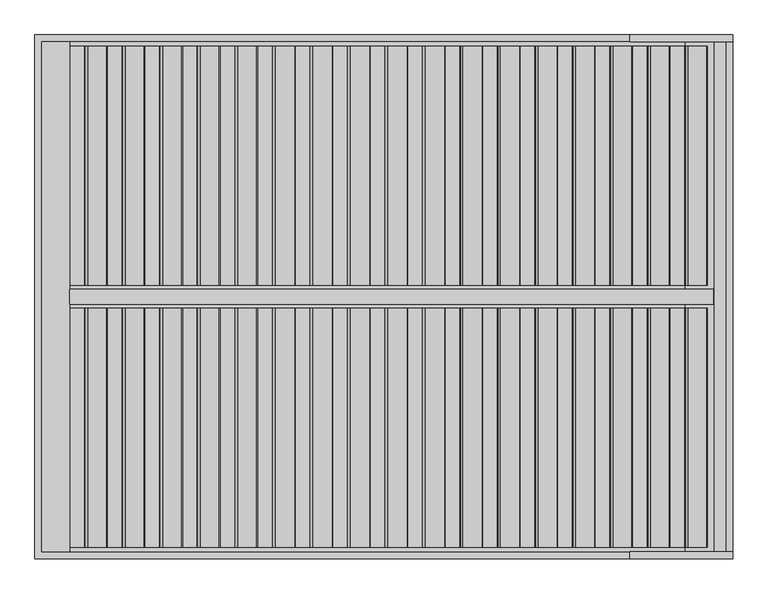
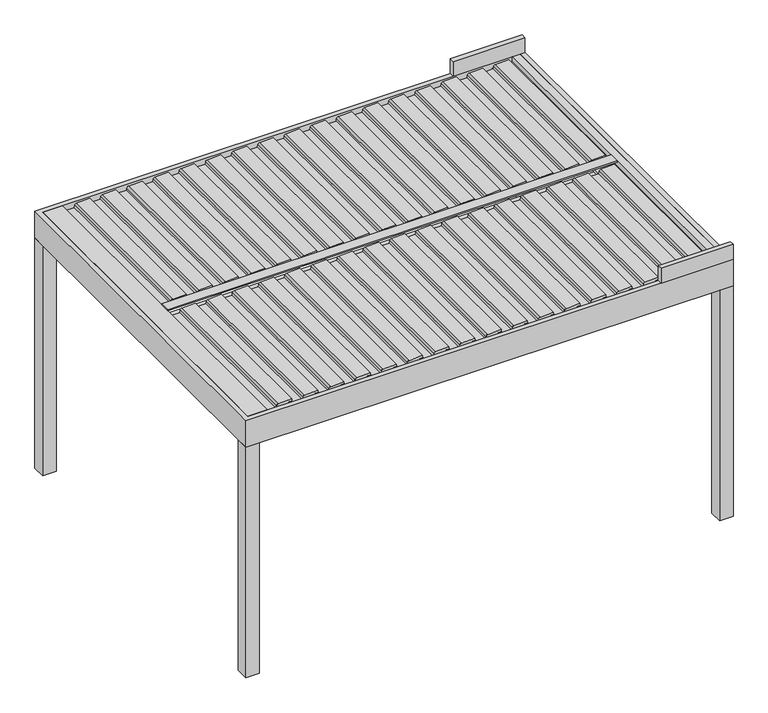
"""IFC4 building model written with IfcOpenShell, lengths in millimetres: proxy geometry, Renson_Algarve_Single Unit With Intermediate Beam : Algarve - Single Unit With Intermediate Beam."""

from ifc_helpers import new_model, si_unit, point, frame, frame_2d, origin, origin_with_axes, place, context, project, spatial, polyline, circle_curve, trimmed, segment, composite_curve, outline, extrude, faceted_brep, source, transform, mapped, element, save


def generic_models_7727c5ff(model_context):
    return source(origin(), model_context, "Body", "SolidModel", [
        extrude(outline(composite_curve([segment(polyline([(2188.35, 1609.6114167), (2216.01198, 1612.0315264), (2217.3970364, 1640.8667769), (2236.8911096, 1637.4294458), (2231.6075693, 1527.4323309)]), True, "CONTINUOUS"), segment(trimmed(circle_curve(frame_2d((2216.6248435, 1528.1520029)), 15.0), [point((2231.6075693, 1527.4323309))], [point((2219.2295662, 1513.3798866))], False, "CARTESIAN"), True, "CONTINUOUS"), segment(polyline([(2219.2295662, 1513.3798866), (2200.0, 1509.9891952), (2200.0, 1422.2534192), (2217.0788237, 1419.2419618), (2216.3450182, 1403.9649913), (2188.35, 1401.5157446), (2188.35, 1609.6114167)]), True, "CONTINUOUS")], self_intersect=False)), frame((0.0, -2185.0, 0.0), z_axis=(0.0, 1.0, 0.0), x_axis=(0.0, 0.0, 1.0)), (0.0, 0.0, 1.0), 1370.0),
        extrude(outline(composite_curve([segment(polyline([(2188.35, 1394.600612), (2216.01198, 1397.0207216), (2217.3970364, 1425.8559721), (2236.8911096, 1422.418641), (2231.6075693, 1312.4215261)]), True, "CONTINUOUS"), segment(trimmed(circle_curve(frame_2d((2216.6248435, 1313.1411981)), 15.0), [point((2231.6075693, 1312.4215261))], [point((2219.2295662, 1298.3690818))], False, "CARTESIAN"), True, "CONTINUOUS"), segment(polyline([(2219.2295662, 1298.3690818), (2200.0, 1294.9783904), (2200.0, 1207.2426144), (2217.0788237, 1204.231157), (2216.3450182, 1188.9541865), (2188.35, 1186.5049398), (2188.35, 1394.600612)]), True, "CONTINUOUS")], self_intersect=False)), frame((0.0, -2185.0, 0.0), z_axis=(0.0, 1.0, 0.0), x_axis=(0.0, 0.0, 1.0)), (0.0, 0.0, 1.0), 1370.0),
        extrude(outline(composite_curve([segment(polyline([(2188.35, 1179.5898072), (2216.01198, 1182.0099168), (2217.3970364, 1210.8451673), (2236.8911096, 1207.4078362), (2231.6075693, 1097.4107214)]), True, "CONTINUOUS"), segment(trimmed(circle_curve(frame_2d((2216.6248435, 1098.1303933)), 15.0), [point((2231.6075693, 1097.4107214))], [point((2219.2295662, 1083.358277))], False, "CARTESIAN"), True, "CONTINUOUS"), segment(polyline([(2219.2295662, 1083.358277), (2200.0, 1079.9675857), (2200.0, 992.2318096), (2217.0788237, 989.2203522), (2216.3450182, 973.9433817), (2188.35, 971.494135), (2188.35, 1179.5898072)]), True, "CONTINUOUS")], self_intersect=False)), frame((0.0, -2185.0, 0.0), z_axis=(0.0, 1.0, 0.0), x_axis=(0.0, 0.0, 1.0)), (0.0, 0.0, 1.0), 1370.0),
        extrude(outline(composite_curve([segment(polyline([(2188.35, 964.5790024), (2216.01198, 966.999112), (2217.3970364, 995.8343625), (2236.8911096, 992.3970314), (2231.6075693, 882.3999166)]), True, "CONTINUOUS"), segment(trimmed(circle_curve(frame_2d((2216.6248435, 883.1195885)), 15.0), [point((2231.6075693, 882.3999166))], [point((2219.2295662, 868.3474722))], False, "CARTESIAN"), True, "CONTINUOUS"), segment(polyline([(2219.2295662, 868.3474722), (2200.0, 864.9567809), (2200.0, 777.2210048), (2217.0788237, 774.2095474), (2216.3450182, 758.932577), (2188.35, 756.4833302), (2188.35, 964.5790024)]), True, "CONTINUOUS")], self_intersect=False)), frame((0.0, -2185.0, 0.0), z_axis=(0.0, 1.0, 0.0), x_axis=(0.0, 0.0, 1.0)), (0.0, 0.0, 1.0), 1370.0),
        extrude(outline(composite_curve([segment(polyline([(2188.35, 749.5681976), (2216.01198, 751.9883073), (2217.3970364, 780.8235577), (2236.8911096, 777.3862267), (2231.6075693, 667.3891118)]), True, "CONTINUOUS"), segment(trimmed(circle_curve(frame_2d((2216.6248435, 668.1087837)), 15.0), [point((2231.6075693, 667.3891118))], [point((2219.2295662, 653.3366674))], False, "CARTESIAN"), True, "CONTINUOUS"), segment(polyline([(2219.2295662, 653.3366674), (2200.0, 649.9459761), (2200.0, 562.2102001), (2217.0788237, 559.1987426), (2216.3450182, 543.9217722), (2188.35, 541.4725254), (2188.35, 749.5681976)]), True, "CONTINUOUS")], self_intersect=False)), frame((0.0, -2185.0, 0.0), z_axis=(0.0, 1.0, 0.0), x_axis=(0.0, 0.0, 1.0)), (0.0, 0.0, 1.0), 1370.0),
        extrude(outline(composite_curve([segment(polyline([(2188.35, 534.5573928), (2216.01198, 536.9775025), (2217.3970364, 565.8127529), (2236.8911096, 562.3754219), (2231.6075693, 452.378307)]), True, "CONTINUOUS"), segment(trimmed(circle_curve(frame_2d((2216.6248435, 453.0979789)), 15.0), [point((2231.6075693, 452.378307))], [point((2219.2295662, 438.3258627))], False, "CARTESIAN"), True, "CONTINUOUS"), segment(polyline([(2219.2295662, 438.3258627), (2200.0, 434.9351713), (2200.0, 347.1993953), (2217.0788237, 344.1879379), (2216.3450182, 328.9109674), (2188.35, 326.4617207), (2188.35, 534.5573928)]), True, "CONTINUOUS")], self_intersect=False)), frame((0.0, -2185.0, 0.0), z_axis=(0.0, 1.0, 0.0), x_axis=(0.0, 0.0, 1.0)), (0.0, 0.0, 1.0), 1370.0),
        extrude(outline(composite_curve([segment(polyline([(2188.35, 319.546588), (2216.01198, 321.9666977), (2217.3970364, 350.8019482), (2236.8911096, 347.3646171), (2231.6075693, 237.3675022)]), True, "CONTINUOUS"), segment(trimmed(circle_curve(frame_2d((2216.6248435, 238.0871742)), 15.0), [point((2231.6075693, 237.3675022))], [point((2219.2295662, 223.3150579))], False, "CARTESIAN"), True, "CONTINUOUS"), segment(polyline([(2219.2295662, 223.3150579), (2200.0, 219.9243665), (2200.0, 132.1885905), (2217.0788237, 129.1771331), (2216.3450182, 113.9001626), (2188.35, 111.4509159), (2188.35, 319.546588)]), True, "CONTINUOUS")], self_intersect=False)), frame((0.0, -2185.0, 0.0), z_axis=(0.0, 1.0, 0.0), x_axis=(0.0, 0.0, 1.0)), (0.0, 0.0, 1.0), 1370.0),
        extrude(outline(composite_curve([segment(polyline([(2188.35, 104.5357833), (2216.01198, 106.9558929), (2217.3970364, 135.7911434), (2236.8911096, 132.3538123), (2231.6075693, 22.3566975)]), True, "CONTINUOUS"), segment(trimmed(circle_curve(frame_2d((2216.6248435, 23.0763694)), 15.0), [point((2231.6075693, 22.3566975))], [point((2219.2295662, 8.3042531))], False, "CARTESIAN"), True, "CONTINUOUS"), segment(polyline([(2219.2295662, 8.3042531), (2200.0, 4.9135617), (2200.0, -82.8222143), (2217.0788237, -85.8336717), (2216.3450182, -101.1106422), (2188.35, -103.5598889), (2188.35, 104.5357833)]), True, "CONTINUOUS")], self_intersect=False)), frame((0.0, -2185.0, 0.0), z_axis=(0.0, 1.0, 0.0), x_axis=(0.0, 0.0, 1.0)), (0.0, 0.0, 1.0), 1370.0),
        extrude(outline(composite_curve([segment(polyline([(2188.35, -110.4750215), (2216.01198, -108.0549119), (2217.3970364, -79.2196614), (2236.8911096, -82.6569925), (2231.6075693, -192.6541073)]), True, "CONTINUOUS"), segment(trimmed(circle_curve(frame_2d((2216.6248435, -191.9344354)), 15.0), [point((2231.6075693, -192.6541073))], [point((2219.2295662, -206.7065517))], False, "CARTESIAN"), True, "CONTINUOUS"), segment(polyline([(2219.2295662, -206.7065517), (2200.0, -210.097243), (2200.0, -297.8330191), (2217.0788237, -300.8444765), (2216.3450182, -316.121447), (2188.35, -318.5706937), (2188.35, -110.4750215)]), True, "CONTINUOUS")], self_intersect=False)), frame((0.0, -2185.0, 0.0), z_axis=(0.0, 1.0, 0.0), x_axis=(0.0, 0.0, 1.0)), (0.0, 0.0, 1.0), 1370.0),
        extrude(outline(composite_curve([segment(polyline([(2188.35, -325.4858263), (2216.01198, -323.0657166), (2217.3970364, -294.2304662), (2236.8911096, -297.6677973), (2231.6075693, -407.6649121)]), True, "CONTINUOUS"), segment(trimmed(circle_curve(frame_2d((2216.6248435, -406.9452402)), 15.0), [point((2231.6075693, -407.6649121))], [point((2219.2295662, -421.7173565))], False, "CARTESIAN"), True, "CONTINUOUS"), segment(polyline([(2219.2295662, -421.7173565), (2200.0, -425.1080478), (2200.0, -512.8438238), (2217.0788237, -515.8552813), (2216.3450182, -531.1322517), (2188.35, -533.5814985), (2188.35, -325.4858263)]), True, "CONTINUOUS")], self_intersect=False)), frame((0.0, -2185.0, 0.0), z_axis=(0.0, 1.0, 0.0), x_axis=(0.0, 0.0, 1.0)), (0.0, 0.0, 1.0), 1370.0),
        extrude(outline(composite_curve([segment(polyline([(2188.35, -540.4966311), (2216.01198, -538.0765214), (2217.3970364, -509.241271), (2236.8911096, -512.678602), (2231.6075693, -622.6757169)]), True, "CONTINUOUS"), segment(trimmed(circle_curve(frame_2d((2216.6248435, -621.956045)), 15.0), [point((2231.6075693, -622.6757169))], [point((2219.2295662, -636.7281613))], False, "CARTESIAN"), True, "CONTINUOUS"), segment(polyline([(2219.2295662, -636.7281613), (2200.0, -640.1188526), (2200.0, -727.8546286), (2217.0788237, -730.866086), (2216.3450182, -746.1430565), (2188.35, -748.5923032), (2188.35, -540.4966311)]), True, "CONTINUOUS")], self_intersect=False)), frame((0.0, -2185.0, 0.0), z_axis=(0.0, 1.0, 0.0), x_axis=(0.0, 0.0, 1.0)), (0.0, 0.0, 1.0), 1370.0),
        extrude(outline(composite_curve([segment(polyline([(2188.35, -755.5074359), (2216.01198, -753.0873262), (2217.3970364, -724.2520757), (2236.8911096, -727.6894068), (2231.6075693, -837.6865217)]), True, "CONTINUOUS"), segment(trimmed(circle_curve(frame_2d((2216.6248435, -836.9668497)), 15.0), [point((2231.6075693, -837.6865217))], [point((2219.2295662, -851.738966))], False, "CARTESIAN"), True, "CONTINUOUS"), segment(polyline([(2219.2295662, -851.738966), (2200.0, -855.1296574), (2200.0, -942.8654334), (2217.0788237, -945.8768908), (2216.3450182, -961.1538613), (2188.35, -963.603108), (2188.35, -755.5074359)]), True, "CONTINUOUS")], self_intersect=False)), frame((0.0, -2185.0, 0.0), z_axis=(0.0, 1.0, 0.0), x_axis=(0.0, 0.0, 1.0)), (0.0, 0.0, 1.0), 1370.0),
        extrude(outline(composite_curve([segment(polyline([(2188.35, -970.5182406), (2216.01198, -968.098131), (2217.3970364, -939.2628805), (2236.8911096, -942.7002116), (2231.6075693, -1052.6973265)]), True, "CONTINUOUS"), segment(trimmed(circle_curve(frame_2d((2216.6248435, -1051.9776545)), 15.0), [point((2231.6075693, -1052.6973265))], [point((2219.2295662, -1066.7497708))], False, "CARTESIAN"), True, "CONTINUOUS"), segment(polyline([(2219.2295662, -1066.7497708), (2200.0, -1070.1404622), (2200.0, -1157.8762382), (2217.0788237, -1160.8876956), (2216.3450182, -1176.1646661), (2188.35, -1178.6139128), (2188.35, -970.5182406)]), True, "CONTINUOUS")], self_intersect=False)), frame((0.0, -2185.0, 0.0), z_axis=(0.0, 1.0, 0.0), x_axis=(0.0, 0.0, 1.0)), (0.0, 0.0, 1.0), 1370.0),
        extrude(outline(composite_curve([segment(polyline([(2188.35, -1185.5290454), (2216.01198, -1183.1089358), (2217.3970364, -1154.2736853), (2236.8911096, -1157.7110164), (2231.6075693, -1267.7081312)]), True, "CONTINUOUS"), segment(trimmed(circle_curve(frame_2d((2216.6248435, -1266.9884593)), 15.0), [point((2231.6075693, -1267.7081312))], [point((2219.2295662, -1281.7605756))], False, "CARTESIAN"), True, "CONTINUOUS"), segment(polyline([(2219.2295662, -1281.7605756), (2200.0, -1285.1512669), (2200.0, -1372.887043), (2217.0788237, -1375.8985004), (2216.3450182, -1391.1754709), (2188.35, -1393.6247176), (2188.35, -1185.5290454)]), True, "CONTINUOUS")], self_intersect=False)), frame((0.0, -2185.0, 0.0), z_axis=(0.0, 1.0, 0.0), x_axis=(0.0, 0.0, 1.0)), (0.0, 0.0, 1.0), 1370.0),
        extrude(outline(composite_curve([segment(polyline([(2188.35, -1400.5398502), (2216.01198, -1398.1197405), (2217.3970364, -1369.2844901), (2236.8911096, -1372.7218212), (2231.6075693, -1482.718936)]), True, "CONTINUOUS"), segment(trimmed(circle_curve(frame_2d((2216.6248435, -1481.9992641)), 15.0), [point((2231.6075693, -1482.718936))], [point((2219.2295662, -1496.7713804))], False, "CARTESIAN"), True, "CONTINUOUS"), segment(polyline([(2219.2295662, -1496.7713804), (2200.0, -1500.1620717), (2200.0, -1587.8978478), (2217.0788237, -1590.9093052), (2216.3450182, -1606.1862756), (2188.35, -1608.6355224), (2188.35, -1400.5398502)]), True, "CONTINUOUS")], self_intersect=False)), frame((0.0, -2185.0, 0.0), z_axis=(0.0, 1.0, 0.0), x_axis=(0.0, 0.0, 1.0)), (0.0, 0.0, 1.0), 1370.0),
        extrude(outline(composite_curve([segment(polyline([(2188.35, 1824.6222215), (2216.01198, 1827.0423312), (2217.3970364, 1855.8775816), (2236.8911096, 1852.4402506), (2231.6075693, 1742.4431357)]), True, "CONTINUOUS"), segment(trimmed(circle_curve(frame_2d((2216.6248435, 1743.1628076)), 15.0), [point((2231.6075693, 1742.4431357))], [point((2219.2295662, 1728.3906913))], False, "CARTESIAN"), True, "CONTINUOUS"), segment(polyline([(2219.2295662, 1728.3906913), (2200.0, 1725.0), (2200.0, 1637.264224), (2217.0788237, 1634.2527666), (2216.3450182, 1618.9757961), (2188.35, 1616.5265494), (2188.35, 1824.6222215)]), True, "CONTINUOUS")], self_intersect=False)), frame((0.0, -2185.0, 0.0), z_axis=(0.0, 1.0, 0.0), x_axis=(0.0, 0.0, 1.0)), (0.0, 0.0, 1.0), 1370.0),
        extrude(outline(composite_curve([segment(polyline([(2188.35, -1615.550655), (2216.01198, -1613.1305453), (2217.3970364, -1584.2952949), (2236.8911096, -1587.7326259), (2231.6075693, -1697.7297408)]), True, "CONTINUOUS"), segment(trimmed(circle_curve(frame_2d((2216.6248435, -1697.0100689)), 15.0), [point((2231.6075693, -1697.7297408))], [point((2219.2295662, -1711.7821852))], False, "CARTESIAN"), True, "CONTINUOUS"), segment(polyline([(2219.2295662, -1711.7821852), (2200.0, -1715.1728765), (2200.0, -1802.9086525), (2217.0788237, -1805.9201099), (2216.3450182, -1821.1970804), (2188.35, -1823.6463271), (2188.35, -1615.550655)]), True, "CONTINUOUS")], self_intersect=False)), frame((0.0, -2185.0, 0.0), z_axis=(0.0, 1.0, 0.0), x_axis=(0.0, 0.0, 1.0)), (0.0, 0.0, 1.0), 1370.0),
        extrude(outline(composite_curve([segment(polyline([(2188.35, 1609.6114167), (2216.01198, 1612.0315264), (2217.3970364, 1640.8667769), (2236.8911096, 1637.4294458), (2231.6075693, 1527.4323309)]), True, "CONTINUOUS"), segment(trimmed(circle_curve(frame_2d((2216.6248435, 1528.1520029)), 15.0), [point((2231.6075693, 1527.4323309))], [point((2219.2295662, 1513.3798866))], False, "CARTESIAN"), True, "CONTINUOUS"), segment(polyline([(2219.2295662, 1513.3798866), (2200.0, 1509.9891952), (2200.0, 1422.2534192), (2217.0788237, 1419.2419618), (2216.3450182, 1403.9649913), (2188.35, 1401.5157446), (2188.35, 1609.6114167)]), True, "CONTINUOUS")], self_intersect=False)), frame((0.0, -685.0, 0.0), z_axis=(0.0, 1.0, 0.0), x_axis=(0.0, 0.0, 1.0)), (0.0, 0.0, 1.0), 1370.0),
        extrude(outline(composite_curve([segment(polyline([(2188.35, 1394.600612), (2216.01198, 1397.0207216), (2217.3970364, 1425.8559721), (2236.8911096, 1422.418641), (2231.6075693, 1312.4215261)]), True, "CONTINUOUS"), segment(trimmed(circle_curve(frame_2d((2216.6248435, 1313.1411981)), 15.0), [point((2231.6075693, 1312.4215261))], [point((2219.2295662, 1298.3690818))], False, "CARTESIAN"), True, "CONTINUOUS"), segment(polyline([(2219.2295662, 1298.3690818), (2200.0, 1294.9783904), (2200.0, 1207.2426144), (2217.0788237, 1204.231157), (2216.3450182, 1188.9541865), (2188.35, 1186.5049398), (2188.35, 1394.600612)]), True, "CONTINUOUS")], self_intersect=False)), frame((0.0, -685.0, 0.0), z_axis=(0.0, 1.0, 0.0), x_axis=(0.0, 0.0, 1.0)), (0.0, 0.0, 1.0), 1370.0),
        extrude(outline(composite_curve([segment(polyline([(2188.35, 1179.5898072), (2216.01198, 1182.0099168), (2217.3970364, 1210.8451673), (2236.8911096, 1207.4078362), (2231.6075693, 1097.4107214)]), True, "CONTINUOUS"), segment(trimmed(circle_curve(frame_2d((2216.6248435, 1098.1303933)), 15.0), [point((2231.6075693, 1097.4107214))], [point((2219.2295662, 1083.358277))], False, "CARTESIAN"), True, "CONTINUOUS"), segment(polyline([(2219.2295662, 1083.358277), (2200.0, 1079.9675857), (2200.0, 992.2318096), (2217.0788237, 989.2203522), (2216.3450182, 973.9433817), (2188.35, 971.494135), (2188.35, 1179.5898072)]), True, "CONTINUOUS")], self_intersect=False)), frame((0.0, -685.0, 0.0), z_axis=(0.0, 1.0, 0.0), x_axis=(0.0, 0.0, 1.0)), (0.0, 0.0, 1.0), 1370.0),
        extrude(outline(composite_curve([segment(polyline([(2188.35, 964.5790024), (2216.01198, 966.999112), (2217.3970364, 995.8343625), (2236.8911096, 992.3970314), (2231.6075693, 882.3999166)]), True, "CONTINUOUS"), segment(trimmed(circle_curve(frame_2d((2216.6248435, 883.1195885)), 15.0), [point((2231.6075693, 882.3999166))], [point((2219.2295662, 868.3474722))], False, "CARTESIAN"), True, "CONTINUOUS"), segment(polyline([(2219.2295662, 868.3474722), (2200.0, 864.9567809), (2200.0, 777.2210048), (2217.0788237, 774.2095474), (2216.3450182, 758.932577), (2188.35, 756.4833302), (2188.35, 964.5790024)]), True, "CONTINUOUS")], self_intersect=False)), frame((0.0, -685.0, 0.0), z_axis=(0.0, 1.0, 0.0), x_axis=(0.0, 0.0, 1.0)), (0.0, 0.0, 1.0), 1370.0),
        extrude(outline(composite_curve([segment(polyline([(2188.35, 749.5681976), (2216.01198, 751.9883073), (2217.3970364, 780.8235577), (2236.8911096, 777.3862267), (2231.6075693, 667.3891118)]), True, "CONTINUOUS"), segment(trimmed(circle_curve(frame_2d((2216.6248435, 668.1087837)), 15.0), [point((2231.6075693, 667.3891118))], [point((2219.2295662, 653.3366674))], False, "CARTESIAN"), True, "CONTINUOUS"), segment(polyline([(2219.2295662, 653.3366674), (2200.0, 649.9459761), (2200.0, 562.2102001), (2217.0788237, 559.1987426), (2216.3450182, 543.9217722), (2188.35, 541.4725254), (2188.35, 749.5681976)]), True, "CONTINUOUS")], self_intersect=False)), frame((0.0, -685.0, 0.0), z_axis=(0.0, 1.0, 0.0), x_axis=(0.0, 0.0, 1.0)), (0.0, 0.0, 1.0), 1370.0),
        extrude(outline(composite_curve([segment(polyline([(2188.35, 534.5573928), (2216.01198, 536.9775025), (2217.3970364, 565.8127529), (2236.8911096, 562.3754219), (2231.6075693, 452.378307)]), True, "CONTINUOUS"), segment(trimmed(circle_curve(frame_2d((2216.6248435, 453.0979789)), 15.0), [point((2231.6075693, 452.378307))], [point((2219.2295662, 438.3258627))], False, "CARTESIAN"), True, "CONTINUOUS"), segment(polyline([(2219.2295662, 438.3258627), (2200.0, 434.9351713), (2200.0, 347.1993953), (2217.0788237, 344.1879379), (2216.3450182, 328.9109674), (2188.35, 326.4617207), (2188.35, 534.5573928)]), True, "CONTINUOUS")], self_intersect=False)), frame((0.0, -685.0, 0.0), z_axis=(0.0, 1.0, 0.0), x_axis=(0.0, 0.0, 1.0)), (0.0, 0.0, 1.0), 1370.0),
        extrude(outline(composite_curve([segment(polyline([(2188.35, 319.546588), (2216.01198, 321.9666977), (2217.3970364, 350.8019482), (2236.8911096, 347.3646171), (2231.6075693, 237.3675022)]), True, "CONTINUOUS"), segment(trimmed(circle_curve(frame_2d((2216.6248435, 238.0871742)), 15.0), [point((2231.6075693, 237.3675022))], [point((2219.2295662, 223.3150579))], False, "CARTESIAN"), True, "CONTINUOUS"), segment(polyline([(2219.2295662, 223.3150579), (2200.0, 219.9243665), (2200.0, 132.1885905), (2217.0788237, 129.1771331), (2216.3450182, 113.9001626), (2188.35, 111.4509159), (2188.35, 319.546588)]), True, "CONTINUOUS")], self_intersect=False)), frame((0.0, -685.0, 0.0), z_axis=(0.0, 1.0, 0.0), x_axis=(0.0, 0.0, 1.0)), (0.0, 0.0, 1.0), 1370.0),
        extrude(outline(composite_curve([segment(polyline([(2188.35, 104.5357833), (2216.01198, 106.9558929), (2217.3970364, 135.7911434), (2236.8911096, 132.3538123), (2231.6075693, 22.3566975)]), True, "CONTINUOUS"), segment(trimmed(circle_curve(frame_2d((2216.6248435, 23.0763694)), 15.0), [point((2231.6075693, 22.3566975))], [point((2219.2295662, 8.3042531))], False, "CARTESIAN"), True, "CONTINUOUS"), segment(polyline([(2219.2295662, 8.3042531), (2200.0, 4.9135617), (2200.0, -82.8222143), (2217.0788237, -85.8336717), (2216.3450182, -101.1106422), (2188.35, -103.5598889), (2188.35, 104.5357833)]), True, "CONTINUOUS")], self_intersect=False)), frame((0.0, -685.0, 0.0), z_axis=(0.0, 1.0, 0.0), x_axis=(0.0, 0.0, 1.0)), (0.0, 0.0, 1.0), 1370.0),
        extrude(outline(composite_curve([segment(polyline([(2188.35, -110.4750215), (2216.01198, -108.0549119), (2217.3970364, -79.2196614), (2236.8911096, -82.6569925), (2231.6075693, -192.6541073)]), True, "CONTINUOUS"), segment(trimmed(circle_curve(frame_2d((2216.6248435, -191.9344354)), 15.0), [point((2231.6075693, -192.6541073))], [point((2219.2295662, -206.7065517))], False, "CARTESIAN"), True, "CONTINUOUS"), segment(polyline([(2219.2295662, -206.7065517), (2200.0, -210.097243), (2200.0, -297.8330191), (2217.0788237, -300.8444765), (2216.3450182, -316.121447), (2188.35, -318.5706937), (2188.35, -110.4750215)]), True, "CONTINUOUS")], self_intersect=False)), frame((0.0, -685.0, 0.0), z_axis=(0.0, 1.0, 0.0), x_axis=(0.0, 0.0, 1.0)), (0.0, 0.0, 1.0), 1370.0),
        extrude(outline(composite_curve([segment(polyline([(2188.35, -325.4858263), (2216.01198, -323.0657166), (2217.3970364, -294.2304662), (2236.8911096, -297.6677973), (2231.6075693, -407.6649121)]), True, "CONTINUOUS"), segment(trimmed(circle_curve(frame_2d((2216.6248435, -406.9452402)), 15.0), [point((2231.6075693, -407.6649121))], [point((2219.2295662, -421.7173565))], False, "CARTESIAN"), True, "CONTINUOUS"), segment(polyline([(2219.2295662, -421.7173565), (2200.0, -425.1080478), (2200.0, -512.8438238), (2217.0788237, -515.8552813), (2216.3450182, -531.1322517), (2188.35, -533.5814985), (2188.35, -325.4858263)]), True, "CONTINUOUS")], self_intersect=False)), frame((0.0, -685.0, 0.0), z_axis=(0.0, 1.0, 0.0), x_axis=(0.0, 0.0, 1.0)), (0.0, 0.0, 1.0), 1370.0),
        extrude(outline(composite_curve([segment(polyline([(2188.35, -540.4966311), (2216.01198, -538.0765214), (2217.3970364, -509.241271), (2236.8911096, -512.678602), (2231.6075693, -622.6757169)]), True, "CONTINUOUS"), segment(trimmed(circle_curve(frame_2d((2216.6248435, -621.956045)), 15.0), [point((2231.6075693, -622.6757169))], [point((2219.2295662, -636.7281613))], False, "CARTESIAN"), True, "CONTINUOUS"), segment(polyline([(2219.2295662, -636.7281613), (2200.0, -640.1188526), (2200.0, -727.8546286), (2217.0788237, -730.866086), (2216.3450182, -746.1430565), (2188.35, -748.5923032), (2188.35, -540.4966311)]), True, "CONTINUOUS")], self_intersect=False)), frame((0.0, -685.0, 0.0), z_axis=(0.0, 1.0, 0.0), x_axis=(0.0, 0.0, 1.0)), (0.0, 0.0, 1.0), 1370.0),
        extrude(outline(composite_curve([segment(polyline([(2188.35, -755.5074359), (2216.01198, -753.0873262), (2217.3970364, -724.2520757), (2236.8911096, -727.6894068), (2231.6075693, -837.6865217)]), True, "CONTINUOUS"), segment(trimmed(circle_curve(frame_2d((2216.6248435, -836.9668497)), 15.0), [point((2231.6075693, -837.6865217))], [point((2219.2295662, -851.738966))], False, "CARTESIAN"), True, "CONTINUOUS"), segment(polyline([(2219.2295662, -851.738966), (2200.0, -855.1296574), (2200.0, -942.8654334), (2217.0788237, -945.8768908), (2216.3450182, -961.1538613), (2188.35, -963.603108), (2188.35, -755.5074359)]), True, "CONTINUOUS")], self_intersect=False)), frame((0.0, -685.0, 0.0), z_axis=(0.0, 1.0, 0.0), x_axis=(0.0, 0.0, 1.0)), (0.0, 0.0, 1.0), 1370.0),
        extrude(outline(composite_curve([segment(polyline([(2188.35, -970.5182406), (2216.01198, -968.098131), (2217.3970364, -939.2628805), (2236.8911096, -942.7002116), (2231.6075693, -1052.6973265)]), True, "CONTINUOUS"), segment(trimmed(circle_curve(frame_2d((2216.6248435, -1051.9776545)), 15.0), [point((2231.6075693, -1052.6973265))], [point((2219.2295662, -1066.7497708))], False, "CARTESIAN"), True, "CONTINUOUS"), segment(polyline([(2219.2295662, -1066.7497708), (2200.0, -1070.1404622), (2200.0, -1157.8762382), (2217.0788237, -1160.8876956), (2216.3450182, -1176.1646661), (2188.35, -1178.6139128), (2188.35, -970.5182406)]), True, "CONTINUOUS")], self_intersect=False)), frame((0.0, -685.0, 0.0), z_axis=(0.0, 1.0, 0.0), x_axis=(0.0, 0.0, 1.0)), (0.0, 0.0, 1.0), 1370.0),
        extrude(outline(composite_curve([segment(polyline([(2188.35, -1185.5290454), (2216.01198, -1183.1089358), (2217.3970364, -1154.2736853), (2236.8911096, -1157.7110164), (2231.6075693, -1267.7081312)]), True, "CONTINUOUS"), segment(trimmed(circle_curve(frame_2d((2216.6248435, -1266.9884593)), 15.0), [point((2231.6075693, -1267.7081312))], [point((2219.2295662, -1281.7605756))], False, "CARTESIAN"), True, "CONTINUOUS"), segment(polyline([(2219.2295662, -1281.7605756), (2200.0, -1285.1512669), (2200.0, -1372.887043), (2217.0788237, -1375.8985004), (2216.3450182, -1391.1754709), (2188.35, -1393.6247176), (2188.35, -1185.5290454)]), True, "CONTINUOUS")], self_intersect=False)), frame((0.0, -685.0, 0.0), z_axis=(0.0, 1.0, 0.0), x_axis=(0.0, 0.0, 1.0)), (0.0, 0.0, 1.0), 1370.0),
        extrude(outline(composite_curve([segment(polyline([(2188.35, -1400.5398502), (2216.01198, -1398.1197405), (2217.3970364, -1369.2844901), (2236.8911096, -1372.7218212), (2231.6075693, -1482.718936)]), True, "CONTINUOUS"), segment(trimmed(circle_curve(frame_2d((2216.6248435, -1481.9992641)), 15.0), [point((2231.6075693, -1482.718936))], [point((2219.2295662, -1496.7713804))], False, "CARTESIAN"), True, "CONTINUOUS"), segment(polyline([(2219.2295662, -1496.7713804), (2200.0, -1500.1620717), (2200.0, -1587.8978478), (2217.0788237, -1590.9093052), (2216.3450182, -1606.1862756), (2188.35, -1608.6355224), (2188.35, -1400.5398502)]), True, "CONTINUOUS")], self_intersect=False)), frame((0.0, -685.0, 0.0), z_axis=(0.0, 1.0, 0.0), x_axis=(0.0, 0.0, 1.0)), (0.0, 0.0, 1.0), 1370.0),
        extrude(outline(composite_curve([segment(polyline([(2188.35, 1824.6222215), (2216.01198, 1827.0423312), (2217.3970364, 1855.8775816), (2236.8911096, 1852.4402506), (2231.6075693, 1742.4431357)]), True, "CONTINUOUS"), segment(trimmed(circle_curve(frame_2d((2216.6248435, 1743.1628076)), 15.0), [point((2231.6075693, 1742.4431357))], [point((2219.2295662, 1728.3906913))], False, "CARTESIAN"), True, "CONTINUOUS"), segment(polyline([(2219.2295662, 1728.3906913), (2200.0, 1725.0), (2200.0, 1637.264224), (2217.0788237, 1634.2527666), (2216.3450182, 1618.9757961), (2188.35, 1616.5265494), (2188.35, 1824.6222215)]), True, "CONTINUOUS")], self_intersect=False)), frame((0.0, -685.0, 0.0), z_axis=(0.0, 1.0, 0.0), x_axis=(0.0, 0.0, 1.0)), (0.0, 0.0, 1.0), 1370.0),
        extrude(outline(composite_curve([segment(polyline([(2188.35, -1615.550655), (2216.01198, -1613.1305453), (2217.3970364, -1584.2952949), (2236.8911096, -1587.7326259), (2231.6075693, -1697.7297408)]), True, "CONTINUOUS"), segment(trimmed(circle_curve(frame_2d((2216.6248435, -1697.0100689)), 15.0), [point((2231.6075693, -1697.7297408))], [point((2219.2295662, -1711.7821852))], False, "CARTESIAN"), True, "CONTINUOUS"), segment(polyline([(2219.2295662, -1711.7821852), (2200.0, -1715.1728765), (2200.0, -1802.9086525), (2217.0788237, -1805.9201099), (2216.3450182, -1821.1970804), (2188.35, -1823.6463271), (2188.35, -1615.550655)]), True, "CONTINUOUS")], self_intersect=False)), frame((0.0, -685.0, 0.0), z_axis=(0.0, 1.0, 0.0), x_axis=(0.0, 0.0, 1.0)), (0.0, 0.0, 1.0), 1370.0),
        extrude(outline(polyline([(2168.0, 1960.0), (2230.0, 1960.0), (2230.0, 1896.0), (2188.0, 1896.0), (2188.0, 1730.0), (2168.0, 1730.0), (2168.0, 1960.0)])), frame((0.0, -2210.0, 0.0), z_axis=(0.0, 1.0, 0.0), x_axis=(0.0, 0.0, 1.0)), (0.0, 0.0, 1.0), 2920.0),
        extrude(outline(polyline([(2230.0, -1800.0), (2230.0, -1960.0), (2186.0, -1960.0), (2186.0, -1827.3193336), (2219.1716603, -1824.4171894), (2220.344502, -1800.0), (2230.0, -1800.0)])), frame((0.0, -2210.0, 0.0), z_axis=(0.0, 1.0, 0.0), x_axis=(0.0, 0.0, 1.0)), (0.0, 0.0, 1.0), 2920.0),
        extrude(outline(polyline([(2000.0, -2210.0), (2000.0, -2250.0), (1410.0, -2250.0), (1410.0, -2210.0), (2000.0, -2210.0)])), frame((0.0, 0.0, 2230.0), z_axis=(0.0, 0.0, 1.0), x_axis=(1.0, 0.0, 0.0)), (0.0, 0.0, 1.0), 130.0),
        extrude(outline(polyline([(1890.0, -713.0), (-1890.0, -713.0), (-1890.0, -640.0), (1890.0, -640.0), (1890.0, -713.0)])), frame((0.0, 0.0, 2000.0), z_axis=(0.0, 0.0, 1.0), x_axis=(1.0, 0.0, 0.0)), (0.0, 0.0, 1.0), 90.0),
        extrude(outline(polyline([(1890.0, -787.0), (1890.0, -860.0), (-1890.0, -860.0), (-1890.0, -787.0), (1890.0, -787.0)])), frame((0.0, 0.0, 2000.0), z_axis=(0.0, 0.0, 1.0), x_axis=(1.0, 0.0, 0.0)), (0.0, 0.0, 1.0), 90.0),
        extrude(outline(polyline([(1890.0, -707.5), (1890.0, -792.5), (-1800.0, -792.5), (-1800.0, -707.5), (1890.0, -707.5)])), frame((0.0, 0.0, 2230.0), z_axis=(0.0, 0.0, 1.0), x_axis=(1.0, 0.0, 0.0)), (0.0, 0.0, 1.0), 10.0),
        faceted_brep([(1890.0, 640.0, 2057.0), (1890.0, 640.0, 2000.0), (1890.0, -2140.0, 2000.0), (1890.0, -2140.0, 2057.0), (2000.0, 750.0, 2000.0), (2000.0, 750.0, 2230.0), (2000.0, -2250.0, 2230.0), (2000.0, -2250.0, 2000.0), (1960.0, 710.0, 2230.0), (1960.0, 710.0, 2057.0), (1960.0, -2210.0, 2057.0), (1960.0, -2210.0, 2230.0), (-1890.0, -2140.0, 2000.0), (-1890.0, -2140.0, 2057.0), (-2000.0, -2250.0, 2230.0), (-2000.0, -2250.0, 2000.0), (-1960.0, -2210.0, 2057.0), (-1960.0, -2210.0, 2230.0), (-1890.0, 640.0, 2000.0), (-1890.0, 640.0, 2057.0), (-2000.0, 750.0, 2230.0), (-2000.0, 750.0, 2000.0), (-1960.0, 710.0, 2057.0), (-1960.0, 710.0, 2230.0)], [[[0, 1, 2, 3]], [[4, 5, 6, 7]], [[8, 9, 10, 11]], [[3, 2, 12, 13]], [[7, 6, 14, 15]], [[11, 10, 16, 17]], [[13, 12, 18, 19]], [[15, 14, 20, 21]], [[17, 16, 22, 23]], [[9, 22, 16, 10], [3, 13, 19, 0]], [[19, 18, 1, 0]], [[7, 15, 21, 4], [1, 18, 12, 2]], [[21, 20, 5, 4]], [[5, 20, 14, 6], [11, 17, 23, 8]], [[23, 22, 9, 8]]]),
        extrude(outline(polyline([(2000.0, 750.0), (2000.0, 640.0), (1890.0, 640.0), (1890.0, 750.0), (2000.0, 750.0)])), origin_with_axes(), (0.0, 0.0, 1.0), 2000.0),
        extrude(outline(polyline([(2000.0, -2140.0), (2000.0, -2250.0), (1890.0, -2250.0), (1890.0, -2140.0), (2000.0, -2140.0)])), origin_with_axes(), (0.0, 0.0, 1.0), 2000.0),
        extrude(outline(polyline([(-1890.0, -2140.0), (-1890.0, -2250.0), (-2000.0, -2250.0), (-2000.0, -2140.0), (-1890.0, -2140.0)])), origin_with_axes(), (0.0, 0.0, 1.0), 2000.0),
        extrude(outline(polyline([(-1890.0, 750.0), (-1890.0, 640.0), (-2000.0, 640.0), (-2000.0, 750.0), (-1890.0, 750.0)])), origin_with_axes(), (0.0, 0.0, 1.0), 2000.0),
        extrude(outline(polyline([(2000.0, 750.0), (2000.0, 710.0), (1410.0, 710.0), (1410.0, 750.0), (2000.0, 750.0)])), frame((0.0, 0.0, 2230.0), z_axis=(0.0, 0.0, 1.0), x_axis=(1.0, 0.0, 0.0)), (0.0, 0.0, 1.0), 130.0),
    ])


if __name__ == "__main__":
    model = new_model("IFC4")
    model_context = context("Model", 3, world=origin())
    ifc_project = project(units=[si_unit("LENGTHUNIT", "METRE", prefix="MILLI")], contexts=[model_context])
    site = spatial("IfcSite", under=ifc_project)
    building = spatial("IfcBuilding", under=site)
    placement = place(None, origin())
    generic_models_shape = generic_models_7727c5ff(model_context)
    element("IfcBuildingElementProxy", 1, Name="Renson_Algarve_Single Unit With Intermediate Beam : Algarve - Single Unit With Intermediate Beam", ObjectType="Renson_Algarve_Single Unit With Intermediate Beam : Algarve - Single Unit With Intermediate Beam", at=placement, inside=building, context=model_context, shape_type="MappedRepresentation", body=[
        mapped(generic_models_shape, transform((0.0, 0.0, 0.0), x_axis=(1.0, 0.0, 0.0), y_axis=(0.0, 1.0, 0.0), z_axis=(0.0, 0.0, 1.0))),
    ])
    save(model, "model.ifc")
